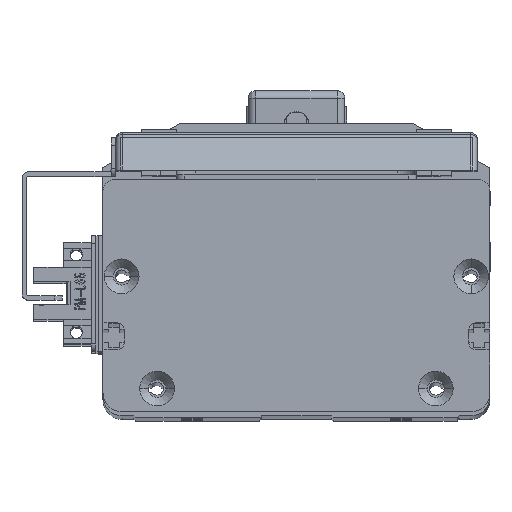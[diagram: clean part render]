
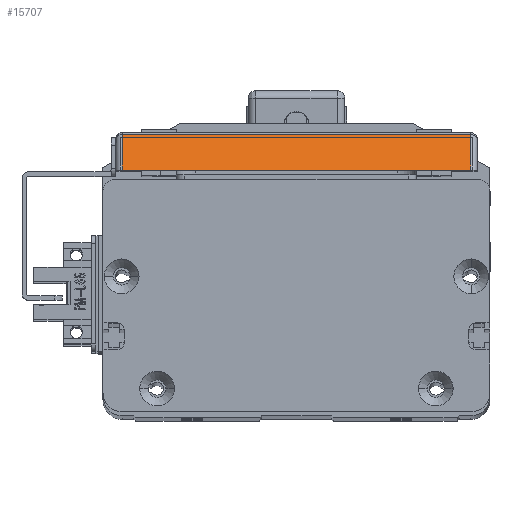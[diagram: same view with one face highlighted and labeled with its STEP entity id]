
A CAD part, top view. The second image highlights one B-rep face of the part: STEP entity #15707.
In plain terms, the highlighted planar face has unit normal (0, 0.707, 0.707) as drawn and (-0.707, 0, -0.707) by its records, which use the part's own axes.
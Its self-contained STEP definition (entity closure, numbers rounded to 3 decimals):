
#4873 = VECTOR ( 'NONE', #7247, 1000. ) ;
#5000 = DIRECTION ( 'NONE',  ( 0., 1., 0. ) ) ;
#5846 = EDGE_CURVE ( 'NONE', #53152, #7938, #40752, .T. ) ;
#7247 = DIRECTION ( 'NONE',  ( 0., -1., 0. ) ) ;
#7938 = VERTEX_POINT ( 'NONE', #30653 ) ;
#11426 = VECTOR ( 'NONE', #16338, 1000. ) ;
#12950 = CARTESIAN_POINT ( 'NONE',  ( -57.298, 93.4, -5.102 ) ) ;
#13451 = EDGE_LOOP ( 'NONE', ( #42527, #34837, #43534, #40531 ) ) ;
#15707 = ADVANCED_FACE ( 'NONE', ( #53804 ), #40247, .T. ) ;
#16338 = DIRECTION ( 'NONE',  ( -0.707, 0., 0.707 ) ) ;
#16445 = AXIS2_PLACEMENT_3D ( 'NONE', #61251, #45539, #35239 ) ;
#20449 = LINE ( 'NONE', #12950, #4873 ) ;
#26131 = CARTESIAN_POINT ( 'NONE',  ( -57.298, 91.7, -5.102 ) ) ;
#26264 = VERTEX_POINT ( 'NONE', #32498 ) ;
#30653 = CARTESIAN_POINT ( 'NONE',  ( -66.5, 1.7, 4.1 ) ) ;
#32498 = CARTESIAN_POINT ( 'NONE',  ( -66.5, 91.7, 4.1 ) ) ;
#34837 = ORIENTED_EDGE ( 'NONE', *, *, #60395, .T. ) ;
#35239 = DIRECTION ( 'NONE',  ( -0.707, 0., 0.707 ) ) ;
#38452 = EDGE_CURVE ( 'NONE', #26264, #45507, #56205, .T. ) ;
#40247 = PLANE ( 'NONE',  #16445 ) ;
#40531 = ORIENTED_EDGE ( 'NONE', *, *, #63104, .T. ) ;
#40665 = VECTOR ( 'NONE', #43761, 1000. ) ;
#40752 = LINE ( 'NONE', #56457, #11426 ) ;
#41945 = CARTESIAN_POINT ( 'NONE',  ( -66.5, 93.4, 4.1 ) ) ;
#42527 = ORIENTED_EDGE ( 'NONE', *, *, #5846, .T. ) ;
#42862 = CARTESIAN_POINT ( 'NONE',  ( -57.298, 1.7, -5.102 ) ) ;
#43534 = ORIENTED_EDGE ( 'NONE', *, *, #38452, .T. ) ;
#43761 = DIRECTION ( 'NONE',  ( 0.707, 0., -0.707 ) ) ;
#45507 = VERTEX_POINT ( 'NONE', #26131 ) ;
#45539 = DIRECTION ( 'NONE',  ( -0.707, 0., -0.707 ) ) ;
#48355 = VECTOR ( 'NONE', #5000, 1000. ) ;
#53152 = VERTEX_POINT ( 'NONE', #42862 ) ;
#53804 = FACE_OUTER_BOUND ( 'NONE', #13451, .T. ) ;
#56205 = LINE ( 'NONE', #64993, #40665 ) ;
#56457 = CARTESIAN_POINT ( 'NONE',  ( -68., 1.7, 5.6 ) ) ;
#60395 = EDGE_CURVE ( 'NONE', #7938, #26264, #67191, .T. ) ;
#61251 = CARTESIAN_POINT ( 'NONE',  ( -68., 93.4, 5.6 ) ) ;
#63104 = EDGE_CURVE ( 'NONE', #45507, #53152, #20449, .T. ) ;
#64993 = CARTESIAN_POINT ( 'NONE',  ( -68., 91.7, 5.6 ) ) ;
#67191 = LINE ( 'NONE', #41945, #48355 ) ;
